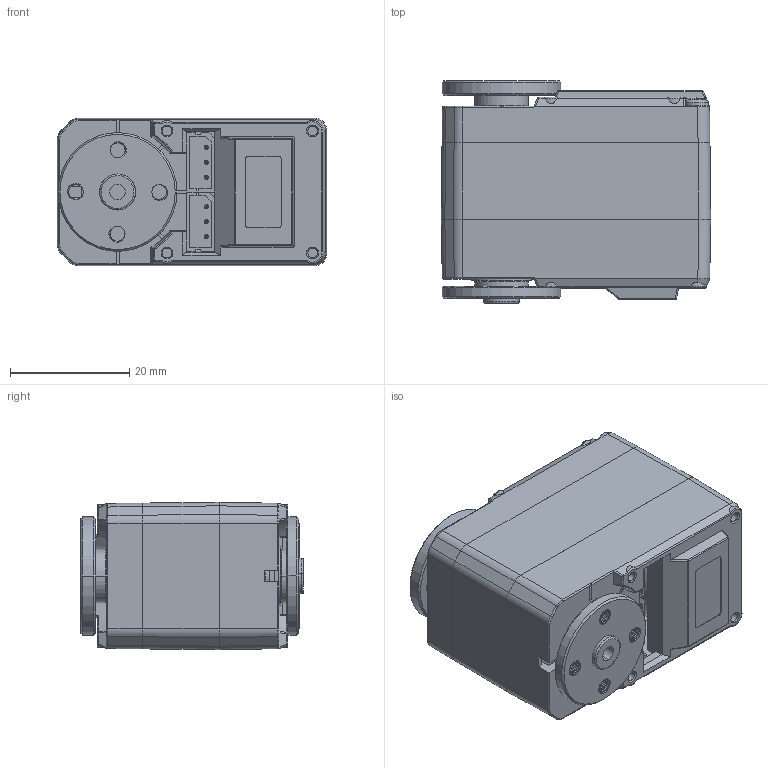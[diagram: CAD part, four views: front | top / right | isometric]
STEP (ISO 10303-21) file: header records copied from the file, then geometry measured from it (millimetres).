
FILE_DESCRIPTION((''),'2;1');
FILE_NAME('ST3215-20200328_ASM','2020-03-28T',('WUSALT01'),(''),'PRO/ENGINEER BY PARAMETRIC TECHNOLOGY CORPORATION, 2008380','PRO/ENGINEER BY PARAMETRIC TECHNOLOGY CORPORATION, 2008380','');
FILE_SCHEMA(('AUTOMOTIVE_DESIGN_CC2 { 1 2 10303 214 -1 1 5 2 }'));
Length unit declared in the file: millimetre
Products named in the file (14): SJ-WK00-0021TOPCABINETCASE_104; MOTOR-1723_3_1; PCB-CHAZUO_92_2; ASM-_____ASM_5_ASM_14_ASM; SJ-WK00-0023BOTTOMCASE_12; SJ-WK00-0022MIDDLECASE_68; LUOSI-2-25_1_2; 3PIN-1_1; CHOUCHENGMR106_3; OUTPUTGEAR_20; FK-AP-019-25T_11; WJ-DP00-0002-FK-AP-020_7; SCS215_ASM_74_ASM; ST3215-20200328_ASM
Assembly tree (18 placements, depth 4):
  ST3215-20200328_ASM
    SCS215_ASM_74_ASM
      ASM-_____ASM_5_ASM_14_ASM
        SJ-WK00-0021TOPCABINETCASE_104
        MOTOR-1723_3_1
        PCB-CHAZUO_92_2
      SJ-WK00-0023BOTTOMCASE_12
      SJ-WK00-0022MIDDLECASE_68
      LUOSI-2-25_1_2  x4
      3PIN-1_1  x2
      CHOUCHENGMR106_3  x2
      OUTPUTGEAR_20
      FK-AP-019-25T_11
      WJ-DP00-0002-FK-AP-020_7
Bounding box: 45.23 x 37.4 x 24.73 mm (x, y, z)
Volume: 19579.6 mm3; surface area: 23357.1 mm2
Topology: 16 solids, 16 shells, 1749 faces, 5137 edges, 3477 vertices
Faces by surface type: cylinder 715, plane 675, cone 112, bspline 96, extrusion 84, torus 45, sphere 14, revolution 8
Entity records: 80367 total; most frequent: CARTESIAN_POINT 38068, ORIENTED_EDGE 9334, DIRECTION 8304, EDGE_CURVE 4667, VERTEX_POINT 3167, AXIS2_PLACEMENT_3D 3019, VECTOR 2264, LINE 2180
